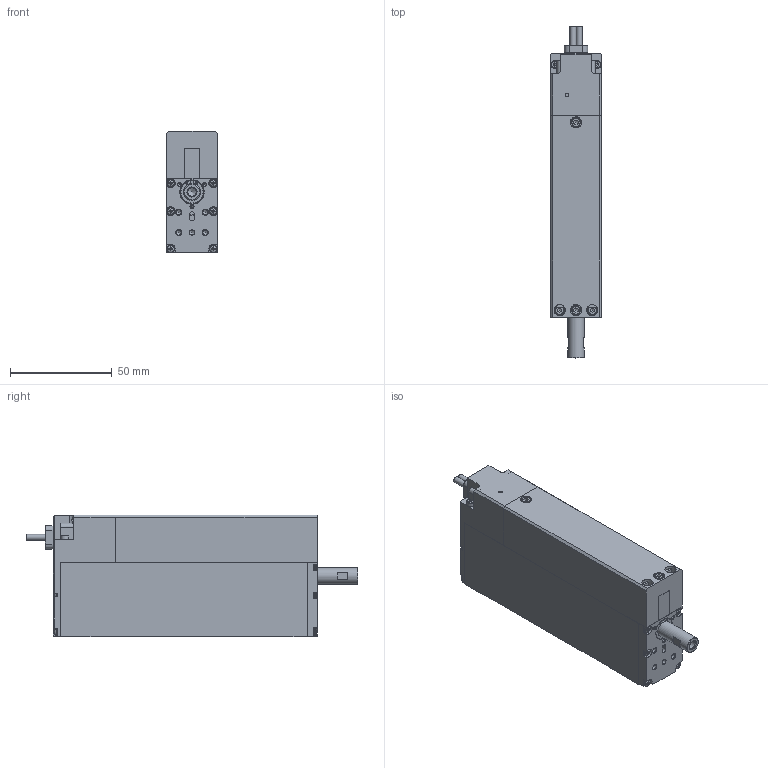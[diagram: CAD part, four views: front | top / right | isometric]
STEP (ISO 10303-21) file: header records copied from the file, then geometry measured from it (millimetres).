
FILE_DESCRIPTION((''),'2;1');
FILE_NAME('D:\SMAC-CAD\LCA\LCA25\LCA25-3D-WEB\LCA25-025-XX-6(3D)_A.stp','2015-06-02T12:08:57',('ToanVu'),(''),'Autodesk Inventor 2008','Autodesk Inventor 2008','');
FILE_SCHEMA(('AUTOMOTIVE_DESIGN { 1 0 10303 214 1 1 1 1 }'));
Length unit declared in the file: millimetre
Products named in the file (11): LCA25-025-XX-6(3D)_A; CABLE-G_B; HSG25-15-1; 11604-01_DX; MAGHSG25-25-1; 18553-01_AX; COVER25-STD; BS EN ISO 7045 H - Metric M2 x 3 - 4.8 - H;  Part 1 Hexagon Socket Head Cap Screw - Metric M2.5 x 4;  Part 1 Hexagon Socket Head Cap Screw - Metric M2 x 3; SHAFT25-FEMALE
Assembly tree (25 placements, depth 2):
  LCA25-025-XX-6(3D)_A
    CABLE-G_B
    HSG25-15-1
    11604-01_DX
    MAGHSG25-25-1
    18553-01_AX
    COVER25-STD
    BS EN ISO 7045 H - Metric M2 x 3 - 4.8 - H  x10
     Part 1 Hexagon Socket Head Cap Screw - Metric M2.5 x 4  x4
     Part 1 Hexagon Socket Head Cap Screw - Metric M2 x 3  x4
    SHAFT25-FEMALE
Bounding box: 25 x 163.5 x 60 mm (x, y, z)
Volume: 193573.3 mm3; surface area: 47380.2 mm2
Topology: 25 solids, 25 shells, 787 faces, 1953 edges, 1259 vertices
Faces by surface type: plane 348, cone 146, bspline 143, cylinder 74, torus 66, sphere 10
Full cylindrical faces by diameter (mm): 1.783 x10, 2 x14, 2.5 x4, 3 x2, 3.8 x4, 4.5 x4, 8 x1, 10 x1, 11.1 x1, 12 x1, 14 x1
Entity records: 13931 total; most frequent: CARTESIAN_POINT 4481, DIRECTION 1797, ORIENTED_EDGE 1754, EDGE_CURVE 877, AXIS2_PLACEMENT_3D 642, EDGE_LOOP 640, VERTEX_POINT 630, VECTOR 513
